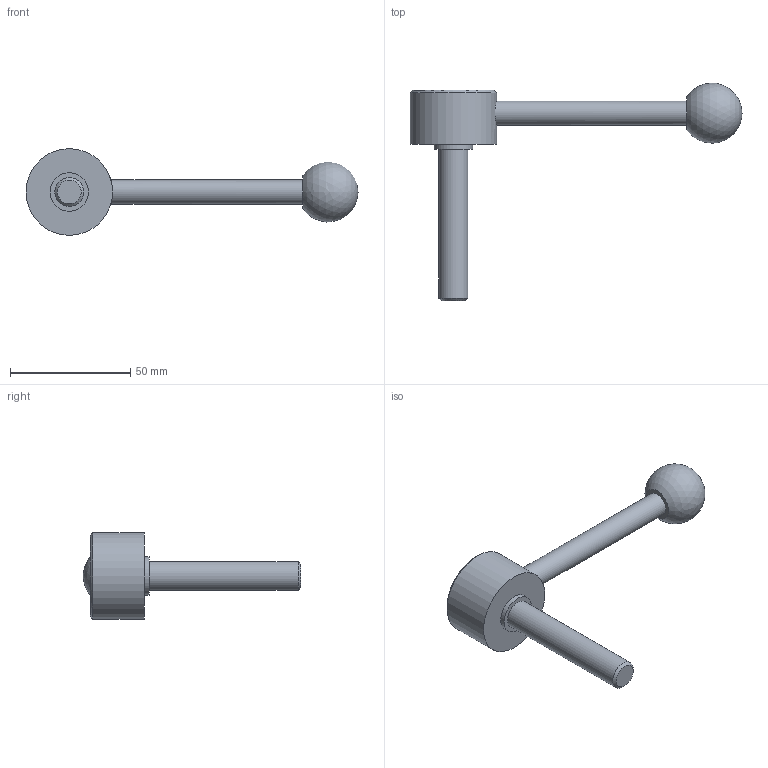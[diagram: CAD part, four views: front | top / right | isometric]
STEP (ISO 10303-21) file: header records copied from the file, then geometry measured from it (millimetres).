
FILE_DESCRIPTION( ( 'STEP AP203' ), '1' );
FILE_NAME( 'C:/Temp/Ganter_Step_05_03_2020/data/2_1/gn_125/gn_125_ms/gn_125_ms_d/Flat Adjustable Lever GN 125-36-M12-63-D.stp', '2020-03-05T11:00:50', ( 'License CC BY-ND 4.0' ), ( 'CADENAS' ), ' ', 'PARTsolutions', ' ' );
FILE_SCHEMA( ( 'CONFIG_CONTROL_DESIGN' ) );
Length unit declared in the file: millimetre
Products named in the file (1): _Flat Adjustable Lever GN 125-36-M12-63-D
Bounding box: 138 x 90.38 x 36 mm (x, y, z)
Volume: 44470.9 mm3; surface area: 11269.5 mm2
Topology: 1 solids, 1 shells, 14 faces, 23 edges, 15 vertices
Faces by surface type: plane 6, cylinder 5, cone 2, sphere 1
Full cylindrical faces by diameter (mm): 10 x1, 12 x1, 16 x1, 26 x1, 36 x1
Entity records: 392 total; most frequent: CARTESIAN_POINT 115, DIRECTION 54, AXIS2_PLACEMENT_3D 27, EDGE_LOOP 26, ORIENTED_EDGE 26, FACE_OUTER_BOUND 19, ADVANCED_FACE 14, VERTEX_POINT 14
